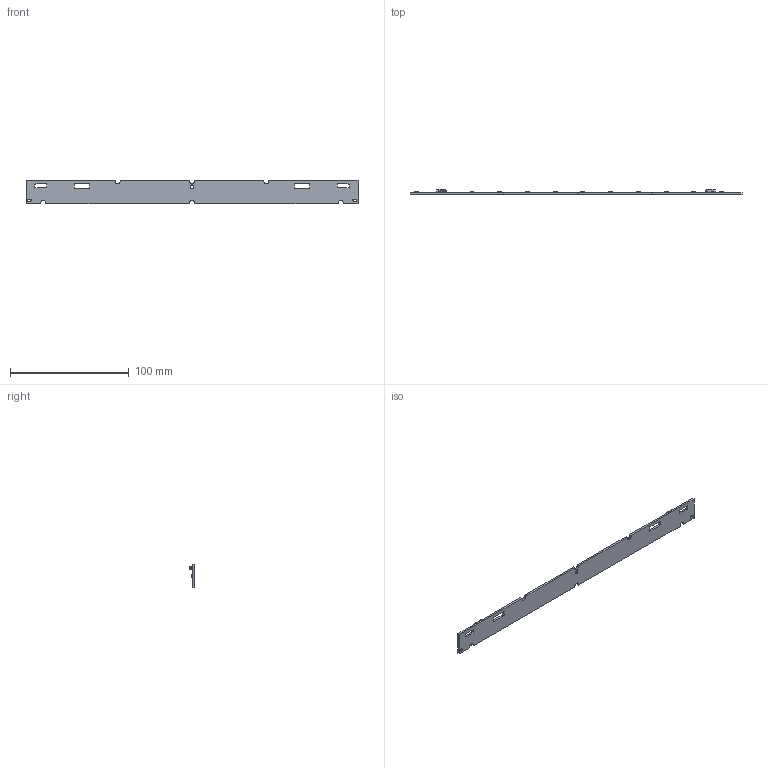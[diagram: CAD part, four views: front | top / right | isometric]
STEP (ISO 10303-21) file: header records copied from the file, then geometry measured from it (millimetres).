
FILE_DESCRIPTION((''),'2;1');
FILE_NAME('ASM_KONE_DIODE_LOGO__ASM','2020-10-26T14:21:22',('msavic'),(''),'CREO PARAMETRIC BY PTC INC, 2016510','CREO PARAMETRIC BY PTC INC, 2016510','');
FILE_SCHEMA(('AUTOMOTIVE_DESIGN { 1 0 10303 214 1 1 1 1 }'));
Products named in the file (12): BAZA_WU-M-669; DIODA_STW8A2PD_ASM; VSO-LOGO-5MM_3; VSO-LOGO-5MM001_2_1; BUILT-IN_LED_MODULE-5MM004_2; BUILT-IN_LED_MODULE-5MM003_2; BUILT-IN_LED_MODULE-5MM002_2; BUILT-IN_LED_MODULE-5MM001_2; CE-ZEICHEN-6MM_2; CE-ZEICHEN-6MM001_2; 2065-101_998-403; ASM_KONE_DIODE_LOGO__ASM
Assembly tree (24 placements, depth 2):
  ASM_KONE_DIODE_LOGO__ASM
    BAZA_WU-M-669
    DIODA_STW8A2PD_ASM  x12
    VSO-LOGO-5MM_3
    VSO-LOGO-5MM001_2_1
    BUILT-IN_LED_MODULE-5MM004_2
    BUILT-IN_LED_MODULE-5MM003_2
    BUILT-IN_LED_MODULE-5MM002_2
    BUILT-IN_LED_MODULE-5MM001_2  x2
    CE-ZEICHEN-6MM_2
    CE-ZEICHEN-6MM001_2
    2065-101_998-403  x2
Bounding box: 279 x 4.3 x 20 mm (x, y, z)
Volume: 8534.6 mm3; surface area: 12587.8 mm2
Topology: 12 solids, 24 shells, 4122 faces, 11808 edges, 7878 vertices
Faces by surface type: plane 3709, cylinder 403, extrusion 10
Entity records: 118865 total; most frequent: CARTESIAN_POINT 17882, ORIENTED_EDGE 17272, DIRECTION 15107, EDGE_CURVE 8636, VECTOR 8268, LINE 8258, VERTEX_POINT 5761, AXIS2_PLACEMENT_3D 3402
